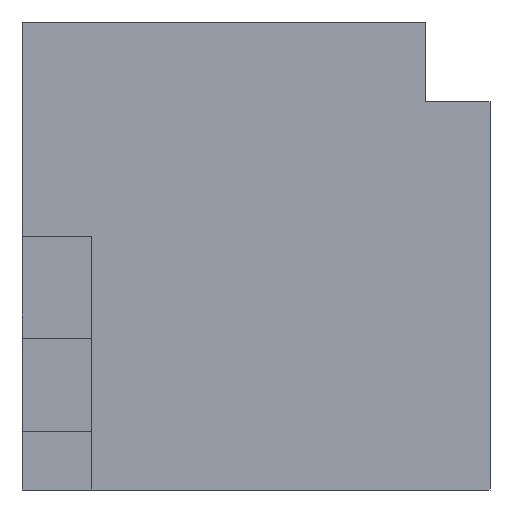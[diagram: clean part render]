
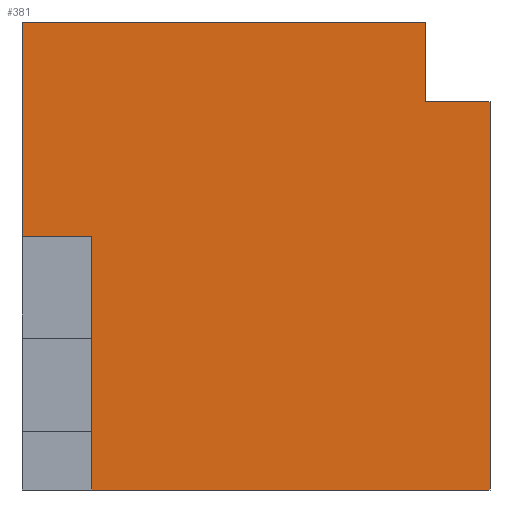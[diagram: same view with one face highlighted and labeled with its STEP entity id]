
A CAD part, left-side view. The second image highlights one B-rep face of the part: STEP entity #381.
In plain terms, the highlighted planar face has unit normal (-1, 0, 0).
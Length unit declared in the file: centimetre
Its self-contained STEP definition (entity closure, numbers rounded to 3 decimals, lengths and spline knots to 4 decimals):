
#62 = VERTEX_POINT ( 'NONE', #1340 ) ;
#72 = CARTESIAN_POINT ( 'NONE',  ( 0., 1000., 1000. ) ) ;
#89 = EDGE_CURVE ( 'NONE', #2148, #151, #1223, .T. ) ;
#104 = ORIENTED_EDGE ( 'NONE', *, *, #89, .T. ) ;
#141 = CARTESIAN_POINT ( 'NONE',  ( 0., 851.1951, 542.1404 ) ) ;
#151 = VERTEX_POINT ( 'NONE', #154 ) ;
#154 = CARTESIAN_POINT ( 'NONE',  ( 0., 137.7915, 829.4664 ) ) ;
#188 = ORIENTED_EDGE ( 'NONE', *, *, #1362, .F. ) ;
#242 = EDGE_CURVE ( 'NONE', #1694, #243, #409, .T. ) ;
#243 = VERTEX_POINT ( 'NONE', #1602 ) ;
#256 = CARTESIAN_POINT ( 'NONE',  ( 0., 1000., 1000. ) ) ;
#265 = CARTESIAN_POINT ( 'NONE',  ( 0., 1000., 1000. ) ) ;
#267 = LINE ( 'NONE', #1626, #2018 ) ;
#284 = EDGE_CURVE ( 'NONE', #2148, #243, #1581, .T. ) ;
#310 = ORIENTED_EDGE ( 'NONE', *, *, #242, .T. ) ;
#370 = CARTESIAN_POINT ( 'NONE',  ( 0., 137.7915, 829.4664 ) ) ;
#381 = ADVANCED_FACE ( 'NONE', ( #1448 ), #2126, .F. ) ;
#409 = LINE ( 'NONE', #1281, #1375 ) ;
#441 = VECTOR ( 'NONE', #1408, 100. ) ;
#531 = ORIENTED_EDGE ( 'NONE', *, *, #786, .F. ) ;
#553 = DIRECTION ( 'NONE',  ( 1., 0., 0. ) ) ;
#573 = DIRECTION ( 'NONE',  ( 0., -1., 0. ) ) ;
#584 = LINE ( 'NONE', #1101, #1202 ) ;
#586 = VECTOR ( 'NONE', #1592, 100. ) ;
#587 = LINE ( 'NONE', #256, #441 ) ;
#609 = EDGE_CURVE ( 'NONE', #680, #1694, #267, .T. ) ;
#647 = DIRECTION ( 'NONE',  ( 0., 1., 0. ) ) ;
#680 = VERTEX_POINT ( 'NONE', #141 ) ;
#682 = CARTESIAN_POINT ( 'NONE',  ( 0., 0., 829.4664 ) ) ;
#705 = VERTEX_POINT ( 'NONE', #1769 ) ;
#769 = CARTESIAN_POINT ( 'NONE',  ( 0., 1000., 1000. ) ) ;
#786 = EDGE_CURVE ( 'NONE', #680, #62, #584, .T. ) ;
#933 = CARTESIAN_POINT ( 'NONE',  ( 0., 0., 1000. ) ) ;
#999 = EDGE_LOOP ( 'NONE', ( #1176, #104, #1349, #188, #1984, #531, #1981, #310 ) ) ;
#1074 = DIRECTION ( 'NONE',  ( 0., 0., -1. ) ) ;
#1101 = CARTESIAN_POINT ( 'NONE',  ( 0., 851.1951, 542.1404 ) ) ;
#1154 = VECTOR ( 'NONE', #1074, 100. ) ;
#1160 = EDGE_CURVE ( 'NONE', #151, #705, #1745, .T. ) ;
#1176 = ORIENTED_EDGE ( 'NONE', *, *, #284, .F. ) ;
#1202 = VECTOR ( 'NONE', #1289, 100. ) ;
#1223 = LINE ( 'NONE', #682, #1254 ) ;
#1234 = DIRECTION ( 'NONE',  ( 0., 0., -1. ) ) ;
#1241 = EDGE_CURVE ( 'NONE', #1692, #62, #1916, .T. ) ;
#1254 = VECTOR ( 'NONE', #647, 100. ) ;
#1281 = CARTESIAN_POINT ( 'NONE',  ( 0., 1000., 0. ) ) ;
#1289 = DIRECTION ( 'NONE',  ( 0., 1., 0. ) ) ;
#1301 = AXIS2_PLACEMENT_3D ( 'NONE', #265, #553, #1234 ) ;
#1340 = CARTESIAN_POINT ( 'NONE',  ( 0., 1000., 542.1404 ) ) ;
#1349 = ORIENTED_EDGE ( 'NONE', *, *, #1160, .T. ) ;
#1362 = EDGE_CURVE ( 'NONE', #1692, #705, #587, .T. ) ;
#1375 = VECTOR ( 'NONE', #573, 100. ) ;
#1408 = DIRECTION ( 'NONE',  ( 0., -1., 0. ) ) ;
#1448 = FACE_OUTER_BOUND ( 'NONE', #999, .T. ) ;
#1476 = CARTESIAN_POINT ( 'NONE',  ( 0., 0., 829.4664 ) ) ;
#1581 = LINE ( 'NONE', #933, #586 ) ;
#1592 = DIRECTION ( 'NONE',  ( 0., 0., -1. ) ) ;
#1602 = CARTESIAN_POINT ( 'NONE',  ( 0., 0., 0. ) ) ;
#1626 = CARTESIAN_POINT ( 'NONE',  ( 0., 851.1951, 542.1404 ) ) ;
#1660 = VECTOR ( 'NONE', #1875, 100. ) ;
#1661 = DIRECTION ( 'NONE',  ( 0., 0., -1. ) ) ;
#1692 = VERTEX_POINT ( 'NONE', #769 ) ;
#1694 = VERTEX_POINT ( 'NONE', #2145 ) ;
#1745 = LINE ( 'NONE', #370, #1660 ) ;
#1769 = CARTESIAN_POINT ( 'NONE',  ( 0., 137.7915, 1000. ) ) ;
#1875 = DIRECTION ( 'NONE',  ( 0., 0., 1. ) ) ;
#1916 = LINE ( 'NONE', #72, #1154 ) ;
#1981 = ORIENTED_EDGE ( 'NONE', *, *, #609, .T. ) ;
#1984 = ORIENTED_EDGE ( 'NONE', *, *, #1241, .T. ) ;
#2018 = VECTOR ( 'NONE', #1661, 100. ) ;
#2126 = PLANE ( 'NONE',  #1301 ) ;
#2145 = CARTESIAN_POINT ( 'NONE',  ( 0., 851.1951, 0. ) ) ;
#2148 = VERTEX_POINT ( 'NONE', #1476 ) ;
